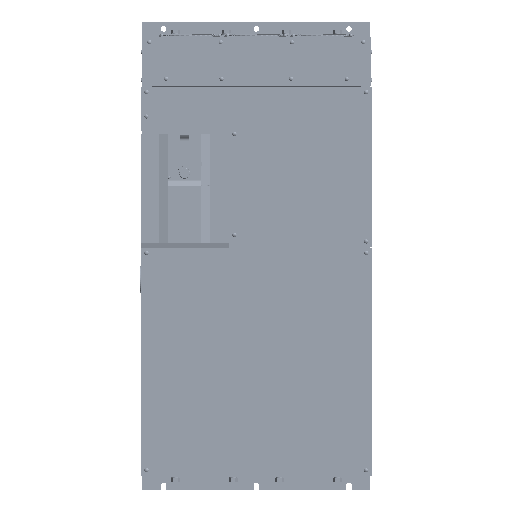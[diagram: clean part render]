
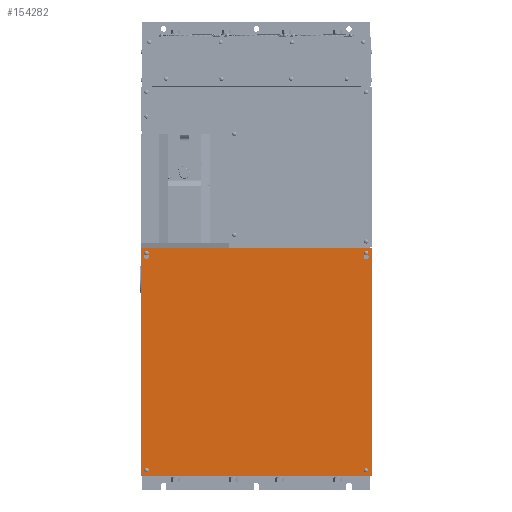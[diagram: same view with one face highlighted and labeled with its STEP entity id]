
A CAD part, top view. The second image highlights one B-rep face of the part: STEP entity #154282.
In plain terms, the highlighted planar face has unit normal (0, 0, 1).
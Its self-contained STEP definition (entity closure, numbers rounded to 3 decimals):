
#153703=DIRECTION('',(-1.,0.,0.));
#153704=VECTOR('',#153703,498.);
#153705=CARTESIAN_POINT('',(496.4,492.,1.6));
#153706=LINE('',#153705,#153704);
#153791=DIRECTION('',(0.,1.,0.));
#153792=VECTOR('',#153791,492.);
#153793=CARTESIAN_POINT('',(496.4,0.,1.6));
#153794=LINE('',#153793,#153792);
#153795=DIRECTION('',(0.,-1.,0.));
#153796=VECTOR('',#153795,492.);
#153797=CARTESIAN_POINT('',(-1.6,492.,1.6));
#153798=LINE('',#153797,#153796);
#153799=CARTESIAN_POINT('',(10.4,12.5,1.6));
#153800=DIRECTION('',(0.,0.,1.));
#153801=DIRECTION('',(1.,0.,0.));
#153802=AXIS2_PLACEMENT_3D('',#153799,#153800,#153801);
#153804=CARTESIAN_POINT('',(10.4,12.5,1.6));
#153805=DIRECTION('',(0.,0.,1.));
#153806=DIRECTION('',(-1.,0.,0.));
#153807=AXIS2_PLACEMENT_3D('',#153804,#153805,#153806);
#153809=CARTESIAN_POINT('',(484.4,12.5,1.6));
#153810=DIRECTION('',(0.,0.,1.));
#153811=DIRECTION('',(1.,0.,0.));
#153812=AXIS2_PLACEMENT_3D('',#153809,#153810,#153811);
#153814=CARTESIAN_POINT('',(484.4,12.5,1.6));
#153815=DIRECTION('',(0.,0.,1.));
#153816=DIRECTION('',(-1.,0.,0.));
#153817=AXIS2_PLACEMENT_3D('',#153814,#153815,#153816);
#153819=DIRECTION('',(0.,-1.,0.));
#153820=VECTOR('',#153819,3.39);
#153821=CARTESIAN_POINT('',(481.4,481.4,1.6));
#153822=LINE('',#153821,#153820);
#153823=CARTESIAN_POINT('',(484.4,473.4,1.6));
#153824=DIRECTION('',(0.,0.,1.));
#153825=DIRECTION('',(-0.545,0.838,0.));
#153826=AXIS2_PLACEMENT_3D('',#153823,#153824,#153825);
#153828=DIRECTION('',(0.,1.,0.));
#153829=VECTOR('',#153828,3.39);
#153830=CARTESIAN_POINT('',(487.4,478.01,1.6));
#153831=LINE('',#153830,#153829);
#153832=CARTESIAN_POINT('',(484.4,481.4,1.6));
#153833=DIRECTION('',(0.,0.,1.));
#153834=DIRECTION('',(1.,0.,0.));
#153835=AXIS2_PLACEMENT_3D('',#153832,#153833,#153834);
#153837=DIRECTION('',(0.,-1.,0.));
#153838=VECTOR('',#153837,3.39);
#153839=CARTESIAN_POINT('',(7.4,481.4,1.6));
#153840=LINE('',#153839,#153838);
#153841=CARTESIAN_POINT('',(10.4,473.4,1.6));
#153842=DIRECTION('',(0.,0.,1.));
#153843=DIRECTION('',(-0.545,0.838,0.));
#153844=AXIS2_PLACEMENT_3D('',#153841,#153842,#153843);
#153846=DIRECTION('',(0.,1.,0.));
#153847=VECTOR('',#153846,3.39);
#153848=CARTESIAN_POINT('',(13.4,478.01,1.6));
#153849=LINE('',#153848,#153847);
#153850=CARTESIAN_POINT('',(10.4,481.4,1.6));
#153851=DIRECTION('',(0.,0.,1.));
#153852=DIRECTION('',(1.,0.,0.));
#153853=AXIS2_PLACEMENT_3D('',#153850,#153851,#153852);
#153951=DIRECTION('',(1.,0.,0.));
#153952=VECTOR('',#153951,498.);
#153953=CARTESIAN_POINT('',(-1.6,0.,1.6));
#153954=LINE('',#153953,#153952);
#154035=CARTESIAN_POINT('',(13.4,12.5,1.6));
#154036=CARTESIAN_POINT('',(7.4,12.5,1.6));
#154037=VERTEX_POINT('',#154035);
#154038=VERTEX_POINT('',#154036);
#154039=CARTESIAN_POINT('',(487.4,12.5,1.6));
#154040=CARTESIAN_POINT('',(481.4,12.5,1.6));
#154041=VERTEX_POINT('',#154039);
#154042=VERTEX_POINT('',#154040);
#154059=CARTESIAN_POINT('',(481.4,481.4,1.6));
#154060=CARTESIAN_POINT('',(481.4,478.01,1.6));
#154061=VERTEX_POINT('',#154059);
#154062=VERTEX_POINT('',#154060);
#154063=CARTESIAN_POINT('',(487.4,478.01,1.6));
#154064=VERTEX_POINT('',#154063);
#154065=CARTESIAN_POINT('',(487.4,481.4,1.6));
#154066=VERTEX_POINT('',#154065);
#154067=CARTESIAN_POINT('',(7.4,481.4,1.6));
#154068=CARTESIAN_POINT('',(7.4,478.01,1.6));
#154069=VERTEX_POINT('',#154067);
#154070=VERTEX_POINT('',#154068);
#154071=CARTESIAN_POINT('',(13.4,478.01,1.6));
#154072=VERTEX_POINT('',#154071);
#154073=CARTESIAN_POINT('',(13.4,481.4,1.6));
#154074=VERTEX_POINT('',#154073);
#154075=CARTESIAN_POINT('',(-1.6,492.,1.6));
#154076=CARTESIAN_POINT('',(-1.6,0.,1.6));
#154077=VERTEX_POINT('',#154075);
#154078=VERTEX_POINT('',#154076);
#154079=CARTESIAN_POINT('',(496.4,0.,1.6));
#154080=CARTESIAN_POINT('',(496.4,492.,1.6));
#154081=VERTEX_POINT('',#154079);
#154082=VERTEX_POINT('',#154080);
#154238=CARTESIAN_POINT('',(0.,0.,1.6));
#154239=DIRECTION('',(0.,0.,1.));
#154240=DIRECTION('',(0.,1.,0.));
#154241=AXIS2_PLACEMENT_3D('',#154238,#154239,#154240);
#154242=PLANE('',#154241);
#154243=ORIENTED_EDGE('',*,*,#154140,.F.);
#154245=ORIENTED_EDGE('',*,*,#154244,.F.);
#154247=ORIENTED_EDGE('',*,*,#154246,.F.);
#154249=ORIENTED_EDGE('',*,*,#154248,.F.);
#154250=EDGE_LOOP('',(#154243,#154245,#154247,#154249));
#154251=FACE_OUTER_BOUND('',#154250,.F.);
#154252=ORIENTED_EDGE('',*,*,#154218,.T.);
#154253=ORIENTED_EDGE('',*,*,#154232,.T.);
#154254=EDGE_LOOP('',(#154252,#154253));
#154255=FACE_BOUND('',#154254,.F.);
#154257=ORIENTED_EDGE('',*,*,#154256,.T.);
#154259=ORIENTED_EDGE('',*,*,#154258,.T.);
#154260=EDGE_LOOP('',(#154257,#154259));
#154261=FACE_BOUND('',#154260,.F.);
#154263=ORIENTED_EDGE('',*,*,#154262,.T.);
#154265=ORIENTED_EDGE('',*,*,#154264,.T.);
#154267=ORIENTED_EDGE('',*,*,#154266,.T.);
#154269=ORIENTED_EDGE('',*,*,#154268,.T.);
#154270=EDGE_LOOP('',(#154263,#154265,#154267,#154269));
#154271=FACE_BOUND('',#154270,.F.);
#154273=ORIENTED_EDGE('',*,*,#154272,.T.);
#154275=ORIENTED_EDGE('',*,*,#154274,.T.);
#154277=ORIENTED_EDGE('',*,*,#154276,.T.);
#154279=ORIENTED_EDGE('',*,*,#154278,.T.);
#154280=EDGE_LOOP('',(#154273,#154275,#154277,#154279));
#154281=FACE_BOUND('',#154280,.F.);
#154282=ADVANCED_FACE('',(#154251,#154255,#154261,#154271,#154281),#154242,.T.);
#153803=CIRCLE('',#153802,3.);
#153808=CIRCLE('',#153807,3.);
#153813=CIRCLE('',#153812,3.);
#153818=CIRCLE('',#153817,3.);
#153827=CIRCLE('',#153826,5.5);
#153836=CIRCLE('',#153835,3.);
#153845=CIRCLE('',#153844,5.5);
#153854=CIRCLE('',#153853,3.);
#154140=EDGE_CURVE('',#154082,#154077,#153706,.T.);
#154218=EDGE_CURVE('',#154037,#154038,#153803,.T.);
#154232=EDGE_CURVE('',#154038,#154037,#153808,.T.);
#154244=EDGE_CURVE('',#154081,#154082,#153794,.T.);
#154246=EDGE_CURVE('',#154078,#154081,#153954,.T.);
#154248=EDGE_CURVE('',#154077,#154078,#153798,.T.);
#154256=EDGE_CURVE('',#154041,#154042,#153813,.T.);
#154258=EDGE_CURVE('',#154042,#154041,#153818,.T.);
#154262=EDGE_CURVE('',#154061,#154062,#153822,.T.);
#154264=EDGE_CURVE('',#154062,#154064,#153827,.T.);
#154266=EDGE_CURVE('',#154064,#154066,#153831,.T.);
#154268=EDGE_CURVE('',#154066,#154061,#153836,.T.);
#154272=EDGE_CURVE('',#154069,#154070,#153840,.T.);
#154274=EDGE_CURVE('',#154070,#154072,#153845,.T.);
#154276=EDGE_CURVE('',#154072,#154074,#153849,.T.);
#154278=EDGE_CURVE('',#154074,#154069,#153854,.T.);
